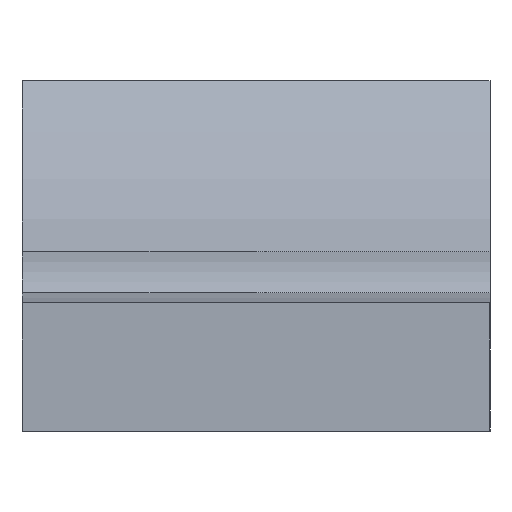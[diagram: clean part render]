
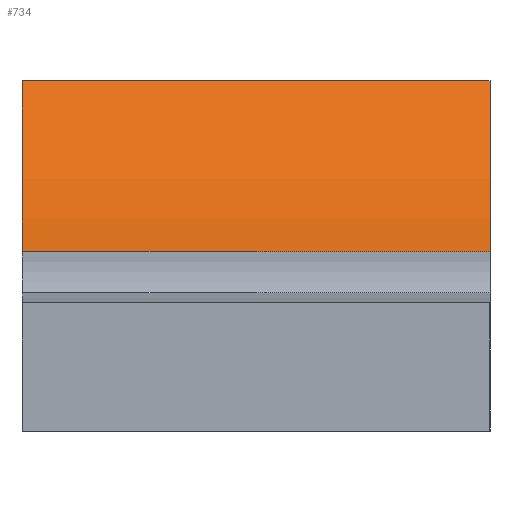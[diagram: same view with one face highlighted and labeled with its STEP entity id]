
A CAD part, left-side view. The second image highlights one B-rep face of the part: STEP entity #734.
In plain terms, the highlighted cylindrical face has radius 7.8 mm (diameter 15.6 mm), a partial arc.
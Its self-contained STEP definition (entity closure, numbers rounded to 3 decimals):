
#43 = PLANE('',#44);
#44 = AXIS2_PLACEMENT_3D('',#45,#46,#47);
#45 = CARTESIAN_POINT('',(26.,-31.,-24.1));
#46 = DIRECTION('',(-0.,1.,0.));
#47 = DIRECTION('',(0.,0.,1.));
#97 = PLANE('',#98);
#98 = AXIS2_PLACEMENT_3D('',#99,#100,#101);
#99 = CARTESIAN_POINT('',(26.,-39.,-24.1));
#100 = DIRECTION('',(-0.,1.,0.));
#101 = DIRECTION('',(0.,0.,1.));
#304 = VERTEX_POINT('',#305);
#305 = CARTESIAN_POINT('',(32.583,-31.,-20.929));
#320 = CYLINDRICAL_SURFACE('',#321,1.085);
#321 = AXIS2_PLACEMENT_3D('',#322,#323,#324);
#322 = CARTESIAN_POINT('',(31.5,-39.096,-21.));
#323 = DIRECTION('',(0.,1.,0.));
#324 = DIRECTION('',(0.,0.,-1.));
#332 = EDGE_CURVE('',#304,#333,#335,.T.);
#333 = VERTEX_POINT('',#334);
#334 = CARTESIAN_POINT('',(35.696,-31.,-18.));
#335 = SURFACE_CURVE('',#336,(#341,#352),.PCURVE_S1.);
#336 = CIRCLE('',#337,7.8);
#337 = AXIS2_PLACEMENT_3D('',#338,#339,#340);
#338 = CARTESIAN_POINT('',(29.,-31.,-14.));
#339 = DIRECTION('',(0.,-1.,0.));
#340 = DIRECTION('',(0.707,0.,-0.707));
#341 = PCURVE('',#43,#342);
#342 = DEFINITIONAL_REPRESENTATION('',(#343),#351);
#343 = ( BOUNDED_CURVE() B_SPLINE_CURVE(2,(#344,#345,#346,#347,#348,#349
,#350),.UNSPECIFIED.,.T.,.F.) B_SPLINE_CURVE_WITH_KNOTS((1,2,2,2,2,1),(
    -2.094,0.,2.094,4.189,6.283,
8.378),.UNSPECIFIED.) CURVE() GEOMETRIC_REPRESENTATION_ITEM() 
RATIONAL_B_SPLINE_CURVE((1.,0.5,1.,0.5,1.,0.5,1.)) REPRESENTATION_ITEM(
  '') );
#344 = CARTESIAN_POINT('',(4.585,8.515));
#345 = CARTESIAN_POINT('',(14.138,18.068));
#346 = CARTESIAN_POINT('',(17.634,5.019));
#347 = CARTESIAN_POINT('',(21.131,-8.031));
#348 = CARTESIAN_POINT('',(8.081,-4.534));
#349 = CARTESIAN_POINT('',(-4.968,-1.038));
#350 = CARTESIAN_POINT('',(4.585,8.515));
#351 = ( GEOMETRIC_REPRESENTATION_CONTEXT(2) 
PARAMETRIC_REPRESENTATION_CONTEXT() REPRESENTATION_CONTEXT('2D SPACE',''
  ) );
#352 = PCURVE('',#353,#358);
#353 = CYLINDRICAL_SURFACE('',#354,7.8);
#354 = AXIS2_PLACEMENT_3D('',#355,#356,#357);
#355 = CARTESIAN_POINT('',(29.,25.,-14.));
#356 = DIRECTION('',(0.,-1.,0.));
#357 = DIRECTION('',(0.707,0.,-0.707));
#358 = DEFINITIONAL_REPRESENTATION('',(#359),#363);
#359 = LINE('',#360,#361);
#360 = CARTESIAN_POINT('',(0.,56.));
#361 = VECTOR('',#362,1.);
#362 = DIRECTION('',(1.,0.));
#363 = ( GEOMETRIC_REPRESENTATION_CONTEXT(2) 
PARAMETRIC_REPRESENTATION_CONTEXT() REPRESENTATION_CONTEXT('2D SPACE',''
  ) );
#379 = PLANE('',#380);
#380 = AXIS2_PLACEMENT_3D('',#381,#382,#383);
#381 = CARTESIAN_POINT('',(26.,-39.,-18.));
#382 = DIRECTION('',(0.,0.,1.));
#383 = DIRECTION('',(1.,0.,-0.));
#568 = VERTEX_POINT('',#569);
#569 = CARTESIAN_POINT('',(32.583,-39.,-20.929));
#591 = EDGE_CURVE('',#568,#592,#594,.T.);
#592 = VERTEX_POINT('',#593);
#593 = CARTESIAN_POINT('',(35.696,-39.,-18.));
#594 = SURFACE_CURVE('',#595,(#600,#611),.PCURVE_S1.);
#595 = CIRCLE('',#596,7.8);
#596 = AXIS2_PLACEMENT_3D('',#597,#598,#599);
#597 = CARTESIAN_POINT('',(29.,-39.,-14.));
#598 = DIRECTION('',(0.,-1.,0.));
#599 = DIRECTION('',(0.707,0.,-0.707));
#600 = PCURVE('',#97,#601);
#601 = DEFINITIONAL_REPRESENTATION('',(#602),#610);
#602 = ( BOUNDED_CURVE() B_SPLINE_CURVE(2,(#603,#604,#605,#606,#607,#608
,#609),.UNSPECIFIED.,.T.,.F.) B_SPLINE_CURVE_WITH_KNOTS((1,2,2,2,2,1),(
    -2.094,0.,2.094,4.189,6.283,
8.378),.UNSPECIFIED.) CURVE() GEOMETRIC_REPRESENTATION_ITEM() 
RATIONAL_B_SPLINE_CURVE((1.,0.5,1.,0.5,1.,0.5,1.)) REPRESENTATION_ITEM(
  '') );
#603 = CARTESIAN_POINT('',(4.585,8.515));
#604 = CARTESIAN_POINT('',(14.138,18.068));
#605 = CARTESIAN_POINT('',(17.634,5.019));
#606 = CARTESIAN_POINT('',(21.131,-8.031));
#607 = CARTESIAN_POINT('',(8.081,-4.534));
#608 = CARTESIAN_POINT('',(-4.968,-1.038));
#609 = CARTESIAN_POINT('',(4.585,8.515));
#610 = ( GEOMETRIC_REPRESENTATION_CONTEXT(2) 
PARAMETRIC_REPRESENTATION_CONTEXT() REPRESENTATION_CONTEXT('2D SPACE',''
  ) );
#611 = PCURVE('',#353,#612);
#612 = DEFINITIONAL_REPRESENTATION('',(#613),#617);
#613 = LINE('',#614,#615);
#614 = CARTESIAN_POINT('',(0.,64.));
#615 = VECTOR('',#616,1.);
#616 = DIRECTION('',(1.,0.));
#617 = ( GEOMETRIC_REPRESENTATION_CONTEXT(2) 
PARAMETRIC_REPRESENTATION_CONTEXT() REPRESENTATION_CONTEXT('2D SPACE',''
  ) );
#714 = EDGE_CURVE('',#333,#592,#715,.T.);
#715 = SURFACE_CURVE('',#716,(#720,#726),.PCURVE_S1.);
#716 = LINE('',#717,#718);
#717 = CARTESIAN_POINT('',(35.696,25.,-18.));
#718 = VECTOR('',#719,1.);
#719 = DIRECTION('',(0.,-1.,0.));
#720 = PCURVE('',#379,#721);
#721 = DEFINITIONAL_REPRESENTATION('',(#722),#725);
#722 = B_SPLINE_CURVE_WITH_KNOTS('',1,(#723,#724),.UNSPECIFIED.,.F.,.F.,
  (2,2),(55.2,64.8),.PIECEWISE_BEZIER_KNOTS.);
#723 = CARTESIAN_POINT('',(9.696,8.8));
#724 = CARTESIAN_POINT('',(9.696,-0.8));
#725 = ( GEOMETRIC_REPRESENTATION_CONTEXT(2) 
PARAMETRIC_REPRESENTATION_CONTEXT() REPRESENTATION_CONTEXT('2D SPACE',''
  ) );
#726 = PCURVE('',#353,#727);
#727 = DEFINITIONAL_REPRESENTATION('',(#728),#731);
#728 = B_SPLINE_CURVE_WITH_KNOTS('',1,(#729,#730),.UNSPECIFIED.,.F.,.F.,
  (2,2),(55.2,64.8),.PIECEWISE_BEZIER_KNOTS.);
#729 = CARTESIAN_POINT('',(6.53,55.2));
#730 = CARTESIAN_POINT('',(6.53,64.8));
#731 = ( GEOMETRIC_REPRESENTATION_CONTEXT(2) 
PARAMETRIC_REPRESENTATION_CONTEXT() REPRESENTATION_CONTEXT('2D SPACE',''
  ) );
#734 = ADVANCED_FACE('',(#735),#353,.F.);
#735 = FACE_BOUND('',#736,.F.);
#736 = EDGE_LOOP('',(#737,#756,#757,#758));
#737 = ORIENTED_EDGE('',*,*,#738,.F.);
#738 = EDGE_CURVE('',#304,#568,#739,.T.);
#739 = SURFACE_CURVE('',#740,(#744,#750),.PCURVE_S1.);
#740 = LINE('',#741,#742);
#741 = CARTESIAN_POINT('',(32.583,25.,-20.929));
#742 = VECTOR('',#743,1.);
#743 = DIRECTION('',(0.,-1.,0.));
#744 = PCURVE('',#353,#745);
#745 = DEFINITIONAL_REPRESENTATION('',(#746),#749);
#746 = B_SPLINE_CURVE_WITH_KNOTS('',1,(#747,#748),.UNSPECIFIED.,.F.,.F.,
  (2,2),(22.,64.096),.PIECEWISE_BEZIER_KNOTS.);
#747 = CARTESIAN_POINT('',(5.975,22.));
#748 = CARTESIAN_POINT('',(5.975,64.096));
#749 = ( GEOMETRIC_REPRESENTATION_CONTEXT(2) 
PARAMETRIC_REPRESENTATION_CONTEXT() REPRESENTATION_CONTEXT('2D SPACE',''
  ) );
#750 = PCURVE('',#320,#751);
#751 = DEFINITIONAL_REPRESENTATION('',(#752),#755);
#752 = B_SPLINE_CURVE_WITH_KNOTS('',1,(#753,#754),.UNSPECIFIED.,.F.,.F.,
  (2,2),(22.,64.096),.PIECEWISE_BEZIER_KNOTS.);
#753 = CARTESIAN_POINT('',(4.646,42.096));
#754 = CARTESIAN_POINT('',(4.646,0.));
#755 = ( GEOMETRIC_REPRESENTATION_CONTEXT(2) 
PARAMETRIC_REPRESENTATION_CONTEXT() REPRESENTATION_CONTEXT('2D SPACE',''
  ) );
#756 = ORIENTED_EDGE('',*,*,#332,.T.);
#757 = ORIENTED_EDGE('',*,*,#714,.T.);
#758 = ORIENTED_EDGE('',*,*,#591,.F.);
